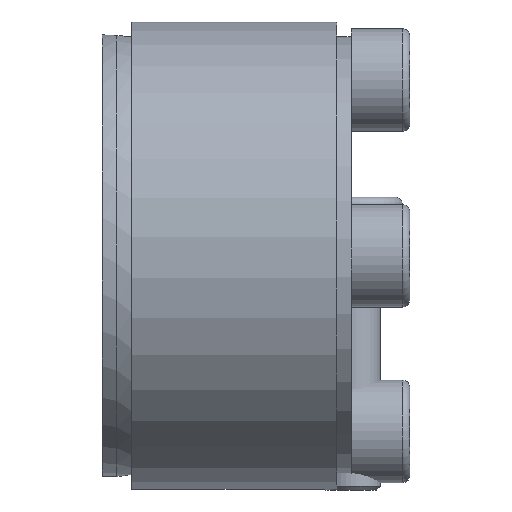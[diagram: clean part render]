
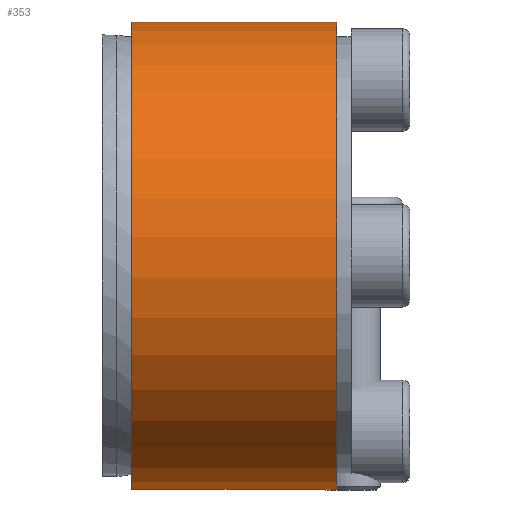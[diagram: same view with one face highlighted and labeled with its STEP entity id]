
A CAD part, left-side view. The second image highlights one B-rep face of the part: STEP entity #353.
In plain terms, the highlighted cylindrical face has radius 16 mm (diameter 32 mm), a partial arc.
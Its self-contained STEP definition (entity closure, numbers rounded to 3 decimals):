
#353 = ADVANCED_FACE( '', ( #553 ), #554, .T. );
#553 = FACE_OUTER_BOUND( '', #677, .T. );
#554 = CYLINDRICAL_SURFACE( '', #678, 16. );
#677 = EDGE_LOOP( '', ( #829, #830, #831, #832 ) );
#678 = AXIS2_PLACEMENT_3D( '', #833, #834, #835 );
#829 = ORIENTED_EDGE( '', *, *, #1141, .F. );
#830 = ORIENTED_EDGE( '', *, *, #1142, .T. );
#831 = ORIENTED_EDGE( '', *, *, #1143, .T. );
#832 = ORIENTED_EDGE( '', *, *, #1144, .F. );
#833 = CARTESIAN_POINT( '', ( 0., -60., 0. ) );
#834 = DIRECTION( '', ( 0., 1., 0. ) );
#835 = DIRECTION( '', ( 0., 0., -1. ) );
#1141 = EDGE_CURVE( '', #1267, #1268, #1269, .T. );
#1142 = EDGE_CURVE( '', #1267, #1270, #1271, .T. );
#1143 = EDGE_CURVE( '', #1270, #1272, #1273, .T. );
#1144 = EDGE_CURVE( '', #1268, #1272, #1274, .T. );
#1267 = VERTEX_POINT( '', #1363 );
#1268 = VERTEX_POINT( '', #1364 );
#1269 = LINE( '', #1365, #1366 );
#1270 = VERTEX_POINT( '', #1367 );
#1271 = CIRCLE( '', #1368, 16. );
#1272 = VERTEX_POINT( '', #1369 );
#1273 = LINE( '', #1370, #1371 );
#1274 = CIRCLE( '', #1372, 16. );
#1363 = CARTESIAN_POINT( '', ( 10.955, 15., 11.662 ) );
#1364 = CARTESIAN_POINT( '', ( 10.955, 1., 11.662 ) );
#1365 = CARTESIAN_POINT( '', ( 10.955, -60., 11.662 ) );
#1366 = VECTOR( '', #1496, 1000. );
#1367 = CARTESIAN_POINT( '', ( 11.662, 15., 10.955 ) );
#1368 = AXIS2_PLACEMENT_3D( '', #1497, #1498, #1499 );
#1369 = CARTESIAN_POINT( '', ( 11.662, 1., 10.955 ) );
#1370 = CARTESIAN_POINT( '', ( 11.662, -60., 10.955 ) );
#1371 = VECTOR( '', #1500, 1000. );
#1372 = AXIS2_PLACEMENT_3D( '', #1501, #1502, #1503 );
#1496 = DIRECTION( '', ( 0., -1., 0. ) );
#1497 = CARTESIAN_POINT( '', ( 0., 15., 0. ) );
#1498 = DIRECTION( '', ( 0., -1., 0. ) );
#1499 = DIRECTION( '', ( 0., 0., -1. ) );
#1500 = DIRECTION( '', ( 0., -1., 0. ) );
#1501 = CARTESIAN_POINT( '', ( 0., 1., 0. ) );
#1502 = DIRECTION( '', ( 0., -1., 0. ) );
#1503 = DIRECTION( '', ( 0., 0., -1. ) );
